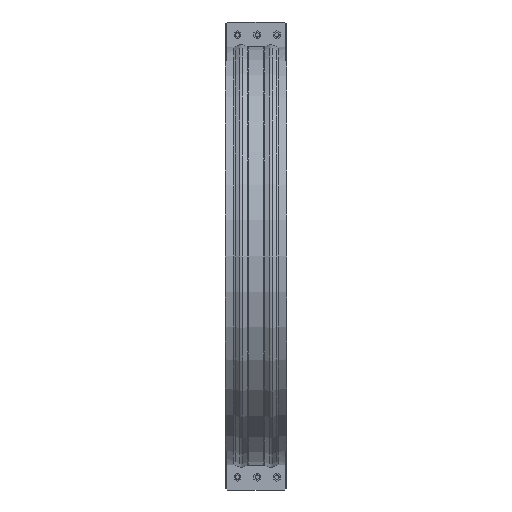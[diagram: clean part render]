
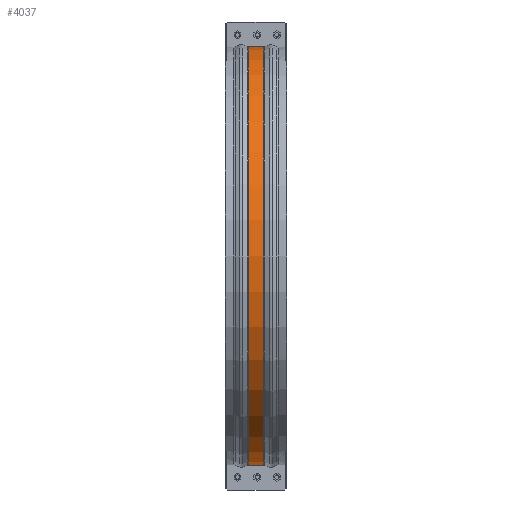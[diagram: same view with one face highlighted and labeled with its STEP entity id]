
A CAD part, front view. The second image highlights one B-rep face of the part: STEP entity #4037.
In plain terms, the highlighted cylindrical face has radius 1079.8 mm (diameter 2159.6 mm), a partial arc.
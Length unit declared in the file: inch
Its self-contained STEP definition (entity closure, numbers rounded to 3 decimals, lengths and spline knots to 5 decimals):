
#368=FACE_OUTER_BOUND('',#593,.T.);
#593=EDGE_LOOP('',(#3057,#3058,#3059,#3060));
#910=LINE('',#6241,#1299);
#918=LINE('',#6373,#1307);
#1299=VECTOR('',#4992,0.3937);
#1307=VECTOR('',#5052,0.3937);
#1551=CIRCLE('',#4321,42.51189);
#1553=CIRCLE('',#4325,42.51189);
#1812=VERTEX_POINT('',#6233);
#1813=VERTEX_POINT('',#6240);
#1828=VERTEX_POINT('',#6358);
#1830=VERTEX_POINT('',#6371);
#2259=EDGE_CURVE('',#1813,#1812,#910,.T.);
#2284=EDGE_CURVE('',#1828,#1813,#1551,.T.);
#2288=EDGE_CURVE('',#1830,#1812,#1553,.T.);
#2289=EDGE_CURVE('',#1830,#1828,#918,.T.);
#3057=ORIENTED_EDGE('',*,*,#2259,.T.);
#3058=ORIENTED_EDGE('',*,*,#2288,.F.);
#3059=ORIENTED_EDGE('',*,*,#2289,.T.);
#3060=ORIENTED_EDGE('',*,*,#2284,.T.);
#3704=CYLINDRICAL_SURFACE('',#4324,42.51189);
#4037=ADVANCED_FACE('',(#368),#3704,.T.);
#4321=AXIS2_PLACEMENT_3D('',#6359,#5041,#5042);
#4324=AXIS2_PLACEMENT_3D('',#6370,#5048,#5049);
#4325=AXIS2_PLACEMENT_3D('',#6372,#5050,#5051);
#4992=DIRECTION('',(1.,0.,0.));
#5041=DIRECTION('center_axis',(1.,0.,0.));
#5042=DIRECTION('ref_axis',(0.,0.,-1.));
#5048=DIRECTION('center_axis',(1.,0.,0.));
#5049=DIRECTION('ref_axis',(0.,-1.,0.));
#5050=DIRECTION('center_axis',(1.,0.,0.));
#5051=DIRECTION('ref_axis',(0.,0.,-1.));
#5052=DIRECTION('',(-1.,0.,0.));
#6233=CARTESIAN_POINT('',(1.60101,-0.375,-42.51023));
#6240=CARTESIAN_POINT('',(-1.60101,-0.375,-42.51023));
#6241=CARTESIAN_POINT('',(0.,-0.375,-42.51023));
#6358=CARTESIAN_POINT('',(-1.60101,-0.375,42.51023));
#6359=CARTESIAN_POINT('Origin',(-1.60101,0.,
0.));
#6370=CARTESIAN_POINT('Origin',(0.,0.,0.));
#6371=CARTESIAN_POINT('',(1.60101,-0.375,42.51023));
#6372=CARTESIAN_POINT('Origin',(1.60101,0.,0.));
#6373=CARTESIAN_POINT('',(0.,-0.375,42.51023));
